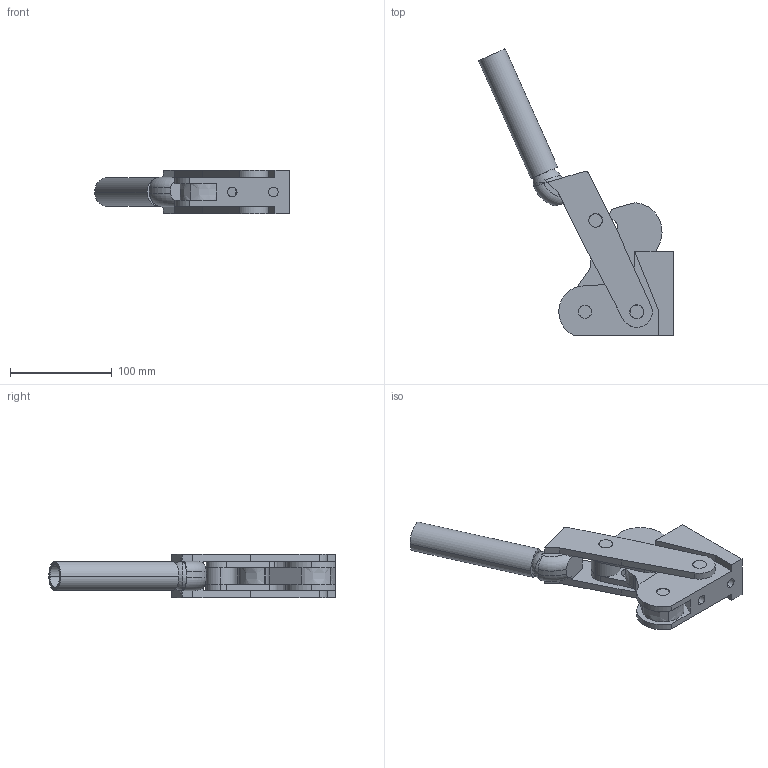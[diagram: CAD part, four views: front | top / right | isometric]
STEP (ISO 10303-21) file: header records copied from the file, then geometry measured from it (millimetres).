
FILE_DESCRIPTION( ( '' ), '1' );
FILE_NAME( 'C:\Documents and Settings\Richard Grenzke\My Documents\Wolverine Company Data\WOLVERINE CD 5_17_05\SOLIDS STEP\heavy_duty_compact\lyt929.stp', ' ', ( '' ), ( '' ), 'ACIS Interop R16', 'Kubotek KeyCreator V5.5.1 (0454)', ' ' );
FILE_SCHEMA( ( 'CONFIG_CONTROL_DESIGN' ) );
Length unit declared in the file: inch
Products named in the file (10): 1; 2; 3; 4; 5; 6; 7; 8; 9; 10
Bounding box: 191.38 x 281.06 x 42.67 mm (x, y, z)
Volume: 413801 mm3; surface area: 126046.8 mm2
Topology: 9 solids, 9 shells, 171 faces, 458 edges, 307 vertices
Faces by surface type: plane 80, cylinder 76, bspline 9, torus 4, sphere 2
Entity records: 6283 total; most frequent: CARTESIAN_POINT 1421, DIRECTION 938, ORIENTED_EDGE 916, EDGE_CURVE 458, AXIS2_PLACEMENT_3D 352, VERTEX_POINT 307, LINE 234, VECTOR 234
